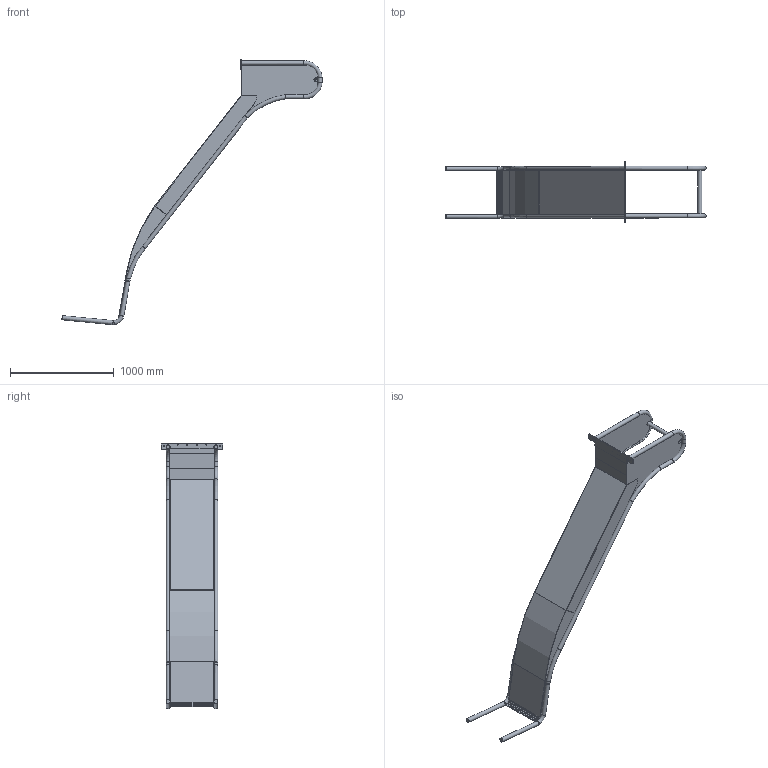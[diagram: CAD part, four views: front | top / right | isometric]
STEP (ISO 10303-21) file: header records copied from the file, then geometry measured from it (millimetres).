
FILE_DESCRIPTION(/* description */ (''),/* implementation_level */ '2;1');
FILE_NAME(/* name */ 'F:\_Inventor\- Tegningsmateriale - kunder\PlayNsafe\PlayNsafe Rutchebaner\120-1400-500 (B500 H1250-1500 med ører)\120-1400-500.stp',/* time_stamp */ '2026-09-08T06:49:36+02:00',/* author */ ('jm'),/* organization */ (''),/* preprocessor_version */ 'ST-DEVELOPER v18.1',/* originating_system */ 'Autodesk Inventor 2022',/* authorisation */ '');
FILE_SCHEMA (('AUTOMOTIVE_DESIGN { 1 0 10303 214 3 1 1 }'));
Length unit declared in the file: millimetre
Products named in the file (11): 120-1400-500; playnsafe udløb; Lb2200 venstre; bund model til step; udløb til LB2200 model til step; 120-2400-1000 øre; forlængerplade til lang siddeområde; monterings plade til model med høje øre; 100-1400-500 indløb; 100-1400-500 rør; lang siddeområde rør
Assembly tree (13 placements, depth 3):
  120-1400-500
    playnsafe udløb
      Lb2200 venstre  x2
      bund model til step
      udløb til LB2200 model til step
    120-2400-1000 øre  x2
    forlængerplade til lang siddeområde
    monterings plade til model med høje øre
    100-1400-500 indløb
    100-1400-500 rør  x2
    lang siddeområde rør
Bounding box: 2507.89 x 595 x 2557.22 mm (x, y, z)
Volume: 16408393.2 mm3; surface area: 5902692.9 mm2
Topology: 12 solids, 12 shells, 283 faces, 665 edges, 409 vertices
Faces by surface type: plane 165, cylinder 94, bspline 10, torus 10, cone 4
Full cylindrical faces by diameter (mm): 2 x2, 6 x4, 34 x1, 38 x3, 39.85 x18
Entity records: 8612 total; most frequent: CARTESIAN_POINT 2779, DIRECTION 1176, ORIENTED_EDGE 1098, EDGE_CURVE 549, AXIS2_PLACEMENT_3D 403, LINE 370, VECTOR 370, VERTEX_POINT 332
